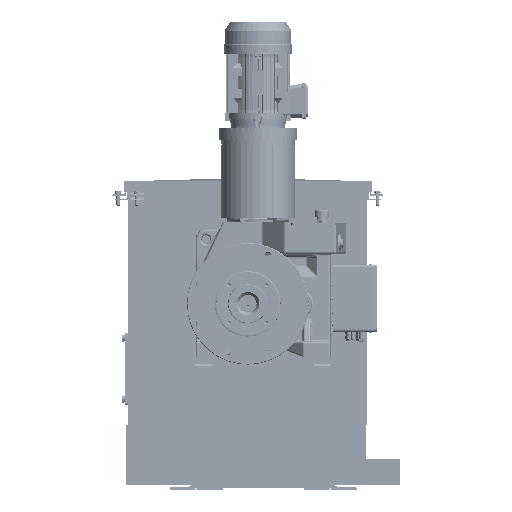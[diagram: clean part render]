
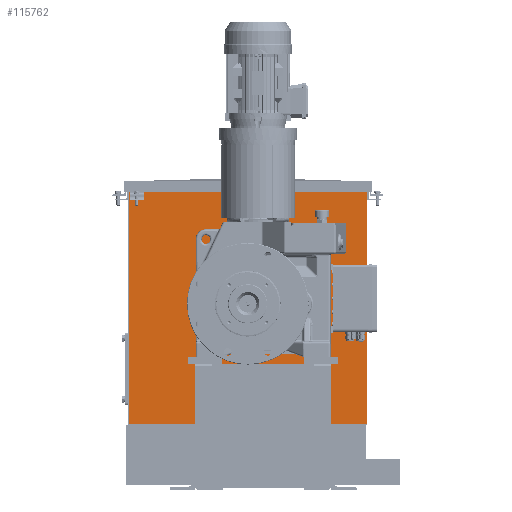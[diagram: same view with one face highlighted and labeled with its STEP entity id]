
A CAD part, front view. The second image highlights one B-rep face of the part: STEP entity #115762.
In plain terms, the highlighted planar face has unit normal (0, -1, 0).
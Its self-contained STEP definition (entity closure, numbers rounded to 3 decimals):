
#3770=LINE('',#169968,#13549);
#3771=LINE('',#169970,#13550);
#3772=LINE('',#169972,#13551);
#3773=LINE('',#169973,#13552);
#3774=LINE('',#169976,#13553);
#3775=LINE('',#169978,#13554);
#3776=LINE('',#169980,#13555);
#3777=LINE('',#169981,#13556);
#13549=VECTOR('',#135739,696.);
#13550=VECTOR('',#135740,699.);
#13551=VECTOR('',#135741,696.);
#13552=VECTOR('',#135742,699.);
#13553=VECTOR('',#135743,40.);
#13554=VECTOR('',#135744,40.);
#13555=VECTOR('',#135745,40.);
#13556=VECTOR('',#135746,40.);
#23445=PLANE('',#122991);
#28552=FACE_BOUND('',#37290,.T.);
#28553=FACE_BOUND('',#37291,.T.);
#30528=FACE_OUTER_BOUND('',#37289,.T.);
#37289=EDGE_LOOP('',(#78933,#78934,#78935,#78936));
#37290=EDGE_LOOP('',(#78937,#78938,#78939,#78940));
#37291=EDGE_LOOP('',(#78941));
#44853=CIRCLE('',#122981,127.);
#49454=VERTEX_POINT('',#169948);
#49459=VERTEX_POINT('',#169966);
#49460=VERTEX_POINT('',#169967);
#49461=VERTEX_POINT('',#169969);
#49462=VERTEX_POINT('',#169971);
#49463=VERTEX_POINT('',#169974);
#49464=VERTEX_POINT('',#169975);
#49465=VERTEX_POINT('',#169977);
#49466=VERTEX_POINT('',#169979);
#60774=EDGE_CURVE('',#49454,#49454,#44853,.T.);
#60783=EDGE_CURVE('',#49459,#49460,#3770,.T.);
#60784=EDGE_CURVE('',#49460,#49461,#3771,.T.);
#60785=EDGE_CURVE('',#49461,#49462,#3772,.T.);
#60786=EDGE_CURVE('',#49462,#49459,#3773,.T.);
#60787=EDGE_CURVE('',#49463,#49464,#3774,.T.);
#60788=EDGE_CURVE('',#49464,#49465,#3775,.T.);
#60789=EDGE_CURVE('',#49465,#49466,#3776,.T.);
#60790=EDGE_CURVE('',#49466,#49463,#3777,.T.);
#78933=ORIENTED_EDGE('',*,*,#60783,.T.);
#78934=ORIENTED_EDGE('',*,*,#60784,.T.);
#78935=ORIENTED_EDGE('',*,*,#60785,.T.);
#78936=ORIENTED_EDGE('',*,*,#60786,.T.);
#78937=ORIENTED_EDGE('',*,*,#60787,.T.);
#78938=ORIENTED_EDGE('',*,*,#60788,.T.);
#78939=ORIENTED_EDGE('',*,*,#60789,.T.);
#78940=ORIENTED_EDGE('',*,*,#60790,.T.);
#78941=ORIENTED_EDGE('',*,*,#60774,.T.);
#115762=ADVANCED_FACE('',(#30528,#28552,#28553),#23445,.F.);
#122981=AXIS2_PLACEMENT_3D('',#169949,#135715,#135716);
#122991=AXIS2_PLACEMENT_3D('',#169965,#135737,#135738);
#135715=DIRECTION('center_axis',(0.,1.,0.));
#135716=DIRECTION('ref_axis',(-1.,0.,0.));
#135737=DIRECTION('center_axis',(0.,1.,0.));
#135738=DIRECTION('ref_axis',(-1.,0.,0.));
#135739=DIRECTION('',(-1.,0.,0.));
#135740=DIRECTION('',(0.,0.,-1.));
#135741=DIRECTION('',(1.,0.,0.));
#135742=DIRECTION('',(0.,0.,1.));
#135743=DIRECTION('',(0.,0.,-1.));
#135744=DIRECTION('',(-1.,0.,0.));
#135745=DIRECTION('',(0.,0.,1.));
#135746=DIRECTION('',(1.,0.,0.));
#169948=CARTESIAN_POINT('',(-3337.623,-4804.995,-829.829));
#169949=CARTESIAN_POINT('Origin',(-3464.623,-4804.995,-829.829));
#169965=CARTESIAN_POINT('Origin',(-3464.623,-4804.995,-831.829));
#169966=CARTESIAN_POINT('',(-3116.623,-4804.995,-483.829));
#169967=CARTESIAN_POINT('',(-3812.623,-4804.995,-483.829));
#169968=CARTESIAN_POINT('',(-3290.623,-4804.995,-483.829));
#169969=CARTESIAN_POINT('',(-3812.623,-4804.995,-1182.829));
#169970=CARTESIAN_POINT('',(-3812.623,-4804.995,-481.829));
#169971=CARTESIAN_POINT('',(-3116.623,-4804.995,-1182.829));
#169972=CARTESIAN_POINT('',(-3812.623,-4804.995,-1182.829));
#169973=CARTESIAN_POINT('',(-3116.623,-4804.995,-1181.829));
#169974=CARTESIAN_POINT('',(-3769.623,-4804.995,-487.545));
#169975=CARTESIAN_POINT('',(-3769.623,-4804.995,-527.545));
#169976=CARTESIAN_POINT('',(-3769.623,-4804.995,-673.75));
#169977=CARTESIAN_POINT('',(-3809.623,-4804.995,-527.545));
#169978=CARTESIAN_POINT('',(-3627.123,-4804.995,-527.545));
#169979=CARTESIAN_POINT('',(-3809.623,-4804.995,-487.545));
#169980=CARTESIAN_POINT('',(-3809.623,-4804.995,-673.75));
#169981=CARTESIAN_POINT('',(-3627.123,-4804.995,-487.545));
